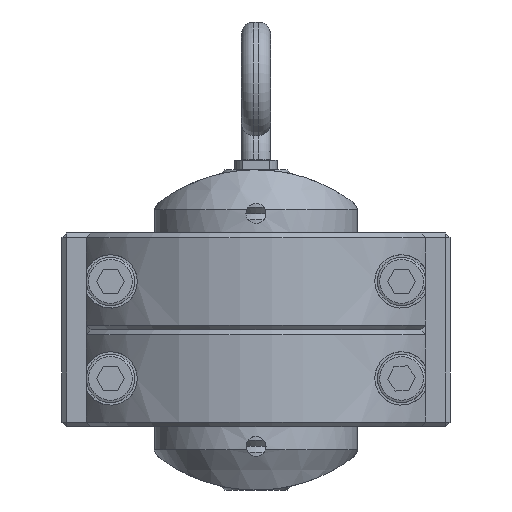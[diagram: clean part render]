
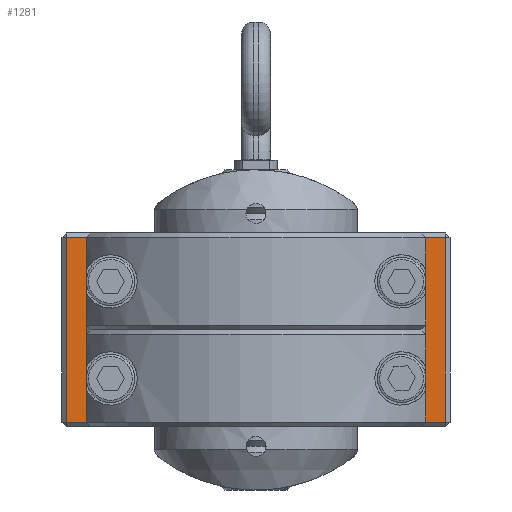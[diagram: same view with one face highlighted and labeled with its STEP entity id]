
A CAD part, left-side view. The second image highlights one B-rep face of the part: STEP entity #1281.
In plain terms, the highlighted planar face has unit normal (-1, 0, 0) as drawn and (0, 0, 1) by its records, which use the part's own axes.
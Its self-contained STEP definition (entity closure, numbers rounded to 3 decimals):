
#1281 = ADVANCED_FACE( '', ( #2531, #2532, #2533, #2534 ), #2535, .T. );
#2531 = FACE_OUTER_BOUND( '', #4151, .T. );
#2532 = FACE_BOUND( '', #4152, .T. );
#2533 = FACE_BOUND( '', #4153, .T. );
#2534 = FACE_BOUND( '', #4154, .T. );
#2535 = PLANE( '', #4155 );
#4151 = EDGE_LOOP( '', ( #6427, #6428, #6429, #6430 ) );
#4152 = EDGE_LOOP( '', ( #6431 ) );
#4153 = EDGE_LOOP( '', ( #6432 ) );
#4154 = EDGE_LOOP( '', ( #6433 ) );
#4155 = AXIS2_PLACEMENT_3D( '', #6434, #6435, #6436 );
#6427 = ORIENTED_EDGE( '', *, *, #8922, .T. );
#6428 = ORIENTED_EDGE( '', *, *, #9122, .T. );
#6429 = ORIENTED_EDGE( '', *, *, #9123, .T. );
#6430 = ORIENTED_EDGE( '', *, *, #9124, .T. );
#6431 = ORIENTED_EDGE( '', *, *, #9125, .F. );
#6432 = ORIENTED_EDGE( '', *, *, #9042, .F. );
#6433 = ORIENTED_EDGE( '', *, *, #9126, .F. );
#6434 = CARTESIAN_POINT( '', ( -40., -20., 11. ) );
#6435 = DIRECTION( '', ( 0., 0., 1. ) );
#6436 = DIRECTION( '', ( 1., 0., 0. ) );
#8922 = EDGE_CURVE( '', #10637, #10342, #10641, .T. );
#9042 = EDGE_CURVE( '', #10830, #10830, #10831, .T. );
#9122 = EDGE_CURVE( '', #10342, #10712, #10950, .T. );
#9123 = EDGE_CURVE( '', #10712, #10897, #10951, .T. );
#9124 = EDGE_CURVE( '', #10897, #10637, #10952, .T. );
#9125 = EDGE_CURVE( '', #10953, #10953, #10954, .T. );
#9126 = EDGE_CURVE( '', #10955, #10955, #10956, .T. );
#10342 = VERTEX_POINT( '', #12930 );
#10637 = VERTEX_POINT( '', #14089 );
#10641 = LINE( '', #14095, #14096 );
#10712 = VERTEX_POINT( '', #14784 );
#10830 = VERTEX_POINT( '', #15069 );
#10831 = CIRCLE( '', #15070, 4.25 );
#10897 = VERTEX_POINT( '', #15235 );
#10950 = LINE( '', #15513, #15514 );
#10951 = LINE( '', #15515, #15516 );
#10952 = LINE( '', #15517, #15518 );
#10953 = VERTEX_POINT( '', #15519 );
#10954 = CIRCLE( '', #15520, 4.25 );
#10955 = VERTEX_POINT( '', #15521 );
#10956 = CIRCLE( '', #15522, 10. );
#12930 = CARTESIAN_POINT( '', ( 39., -19., 11. ) );
#14089 = CARTESIAN_POINT( '', ( -39., -19., 11. ) );
#14095 = CARTESIAN_POINT( '', ( 40., -19., 11. ) );
#14096 = VECTOR( '', #18265, 1000. );
#14784 = CARTESIAN_POINT( '', ( 39., 19., 11. ) );
#15069 = CARTESIAN_POINT( '', ( -23.25, 0., 11. ) );
#15070 = AXIS2_PLACEMENT_3D( '', #18390, #18391, #18392 );
#15235 = CARTESIAN_POINT( '', ( -39., 19., 11. ) );
#15513 = CARTESIAN_POINT( '', ( 39., 20., 11. ) );
#15514 = VECTOR( '', #18484, 1000. );
#15515 = CARTESIAN_POINT( '', ( -40., 19., 11. ) );
#15516 = VECTOR( '', #18485, 1000. );
#15517 = CARTESIAN_POINT( '', ( -39., -20., 11. ) );
#15518 = VECTOR( '', #18486, 1000. );
#15519 = CARTESIAN_POINT( '', ( 31.75, 0., 11. ) );
#15520 = AXIS2_PLACEMENT_3D( '', #18487, #18488, #18489 );
#15521 = CARTESIAN_POINT( '', ( 10., 0., 11. ) );
#15522 = AXIS2_PLACEMENT_3D( '', #18490, #18491, #18492 );
#18265 = DIRECTION( '', ( 1., 0., 0. ) );
#18390 = CARTESIAN_POINT( '', ( -27.5, 0., 11. ) );
#18391 = DIRECTION( '', ( 0., 0., 1. ) );
#18392 = DIRECTION( '', ( 1., 0., 0. ) );
#18484 = DIRECTION( '', ( 0., 1., 0. ) );
#18485 = DIRECTION( '', ( -1., 0., 0. ) );
#18486 = DIRECTION( '', ( 0., -1., 0. ) );
#18487 = CARTESIAN_POINT( '', ( 27.5, 0., 11. ) );
#18488 = DIRECTION( '', ( 0., 0., 1. ) );
#18489 = DIRECTION( '', ( 1., 0., 0. ) );
#18490 = CARTESIAN_POINT( '', ( 0., 0., 11. ) );
#18491 = DIRECTION( '', ( 0., 0., 1. ) );
#18492 = DIRECTION( '', ( 1., 0., 0. ) );
